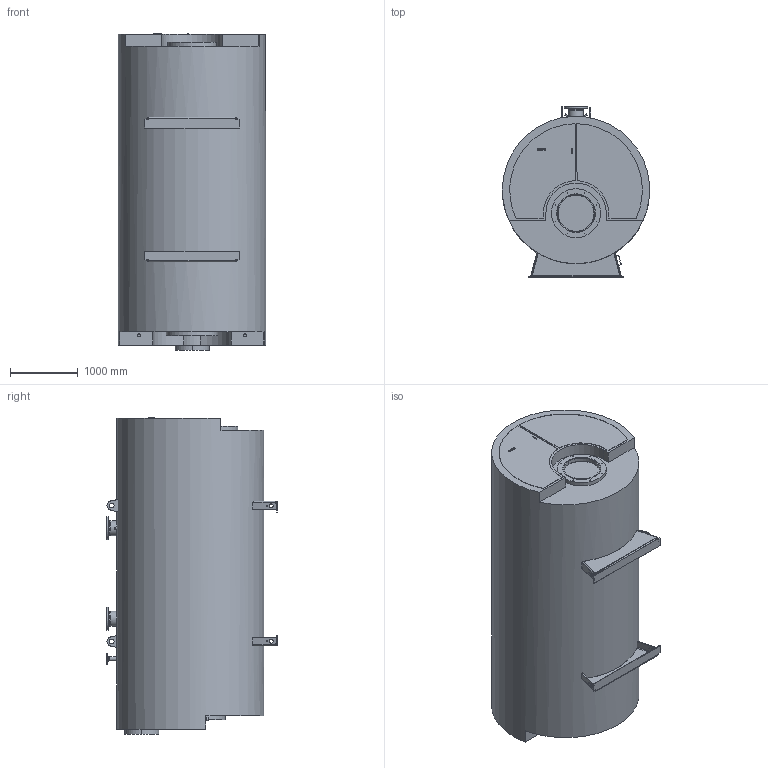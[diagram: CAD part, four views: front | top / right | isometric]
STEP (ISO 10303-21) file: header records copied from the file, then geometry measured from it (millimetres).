
FILE_DESCRIPTION(('TFLEX Exchange Step'),'2;1');
FILE_NAME('M62D023_7550658_H001.stp', '2024-08-09T11:56:07+03:00',('kort'),('Unknown organisation'),'TFLEX Exchange 2024.2','T-FLEX CAD','Unknown authorisation');
FILE_SCHEMA( ('AP242_MANAGED_MODEL_BASED_3D_ENGINEERING_MIM_LF {1 0 10303 442 1 1 4 }') );
Length unit declared in the file: millimetre
Products named in the file (1): 7550658_Grundkessel M62D023_H001
Bounding box: 2168.03 x 2515 x 4659.2 mm (x, y, z)
Volume: 16357556943 mm3; surface area: 42665591.4 mm2
Topology: 25 solids, 25 shells, 568 faces, 1465 edges, 1000 vertices
Faces by surface type: plane 307, cylinder 155, bspline 86, torus 12, cone 8
Full cylindrical faces by diameter (mm): 2.2 x4, 3.2 x4, 3.3 x4, 4 x4, 6.5 x4, 10.3 x8, 13 x4, 18 x4, 18.63 x2, 22 x24, 27 x2, 41.3 x2, 47.803 x2, 48.3 x2, 50 x1, 54.5 x1, 60 x5, 60.3 x1, 70 x2, 102 x1, 165 x1, 203.1 x2, 206.5 x2, 219.1 x2, 340 x2, 554 x1, 720 x1, 760 x1, 2169 x1
Entity records: 23614 total; most frequent: CARTESIAN_POINT 9291, ORIENTED_EDGE 2930, DIRECTION 2661, EDGE_CURVE 1465, VERTEX_POINT 1000, AXIS2_PLACEMENT_3D 923, VECTOR 815, LINE 815
